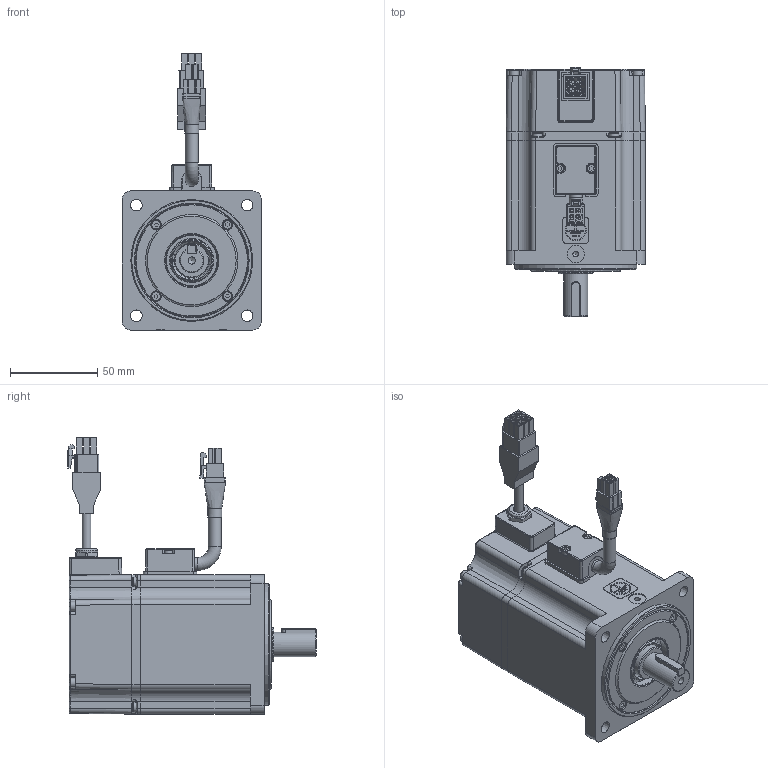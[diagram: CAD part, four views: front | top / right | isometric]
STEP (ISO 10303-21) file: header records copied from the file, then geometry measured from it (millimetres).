
FILE_DESCRIPTION( ( 'Unknown' ), '1' );
FILE_NAME( 'X:/05_Progetto TCE/010-TCE motor drawings/TCE80/vuoti/TCE80 3A XX 3 A2 0.stp', 'Unknown', ( 'Unknown' ), ( 'Unknown' ), 'PSStep 17.0.49', 'Unknown', ' ' );
FILE_SCHEMA( ( 'AUTOMOTIVE_DESIGN { 1 0 10303 214 1 1 1 1 }' ) );
Length unit declared in the file: millimetre
Products named in the file (54): 003108015151_curva; 003303000375; 005453000452_D7,4; U5120001_vuoto; 005911000598; 001799000503; 003120002504; 003108020178_dritto; 005603001018; 003303000021; 005711000200; 005711000200-oa0; Assem1; 005204000001; 005204000002; 005008000690-oa1; 005008000690-oa2; 005008000740-oa3; 005008000908-oa4; 003103001502; 001107000619; 005113000362; 005119001502; 005123000690; 005123000800; 005911000182; 005911000493; 005911003621; 003155000302; 005204000003; 003251022002; 003003050004
Assembly tree (67 placements, depth 4):
  Assem1
    005204000001
    005204000002
    005008000690-oa1
    005008000690-oa2
    005008000740-oa3
    005008000908-oa4
    003103001502
    001107000619
    005113000362
    005119001502
    005119001502
    005123000690
    005123000690
    005123000690
    005123000690
    005123000690
    005123000690
    005123000690
    005123000690
    005123000800
    005123000800
    005123000800
    005123000800
    005123000800
    005123000800
    005123000800
    005123000800
    005123000800
    005911000182  x4
    005911000493  x4
    005911003621  x8
    003155000302
    005204000003
    003251022002
    003003050004
    003108020178_dritto
      005603001018
      003303000021
      005711000200
      005711000200-oa0
      003108020178_dritto
      003108020178_dritto
    U5120001_vuoto
      005911000598  x2
      001799000503
      003120002504
      003120002504
      003108015151_curva
        003303000375
        005453000452_D7,4
        003108015151_curva
        003108015151_curva
        003108015151_curva
Bounding box: 80.3 x 142.9 x 158.7 mm (x, y, z)
Volume: 299120.9 mm3; surface area: 175699.6 mm2
Topology: 64 solids, 64 shells, 2222 faces, 5489 edges, 3500 vertices
Faces by surface type: plane 1282, cylinder 463, torus 139, bspline 121, cone 119, sphere 61, extrusion 37
Full cylindrical faces by diameter (mm): 2.013 x3, 2.459 x31, 2.5 x2, 2.6 x9, 2.7 x2, 3 x16, 3.242 x4, 3.5 x16, 4.134 x2, 4.7 x3, 5 x1, 5.2 x1, 5.3 x2, 5.5 x17, 6.1 x1, 7 x1, 7.4 x2, 7.41 x1, 8 x1, 8.01 x1, 10 x3, 10.3 x2, 10.647 x1, 11 x1, 12 x2, 12.7 x1, 14 x1, 14.99 x1, 15 x2, 19 x1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
Entity records: 83480 total; most frequent: CARTESIAN_POINT 21014, DIRECTION 9329, ORIENTED_EDGE 9196, EDGE_CURVE 4598, AXIS2_PLACEMENT_3D 3177, VERTEX_POINT 3144, VECTOR 2975, LINE 2938
